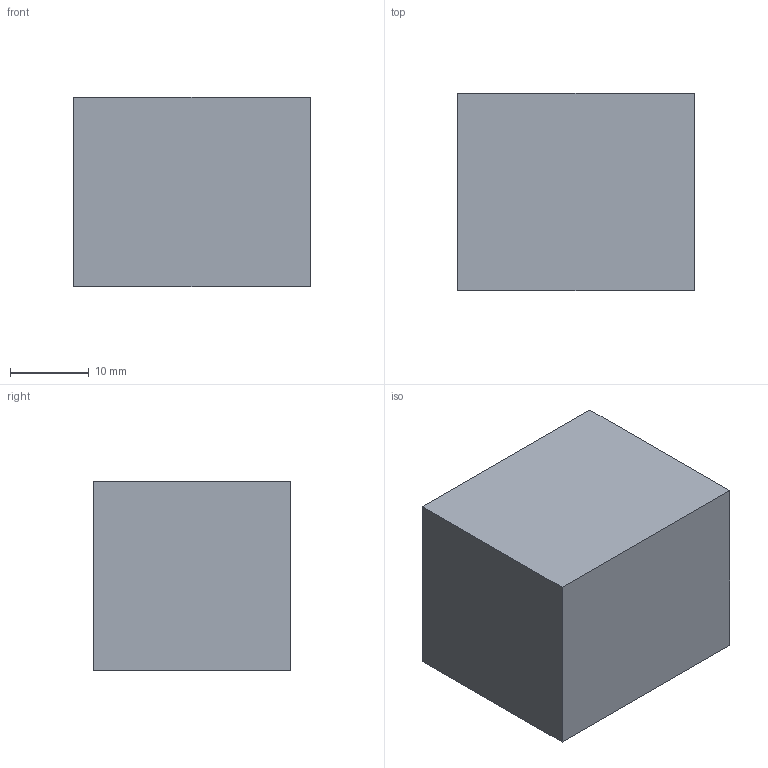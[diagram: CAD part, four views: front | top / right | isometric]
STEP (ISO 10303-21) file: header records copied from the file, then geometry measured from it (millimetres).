
FILE_DESCRIPTION(('Open CASCADE Model'),'2;1');
FILE_NAME('Open CASCADE Shape Model','2026-10-04T02:31:44',('Author'),( 'Open CASCADE'),'Open CASCADE STEP processor 8.0','Open CASCADE 8.0' ,'Unknown');
FILE_SCHEMA(('AUTOMOTIVE_DESIGN { 1 0 10303 214 1 1 1 1 }'));
Length unit declared in the file: millimetre
Products named in the file (1): Open CASCADE STEP translator 8.0 320
Bounding box: 30 x 25 x 24 mm (x, y, z)
Volume: 18000 mm3; surface area: 4140 mm2
Topology: 1 solids, 1 shells, 6 faces, 12 edges, 8 vertices
Faces by surface type: plane 6
Entity records: 322 total; most frequent: CARTESIAN_POINT 51, DIRECTION 50, LINE 36, VECTOR 36, ORIENTED_EDGE 24, PCURVE 24, DEFINITIONAL_REPRESENTATION 24, EDGE_CURVE 12
